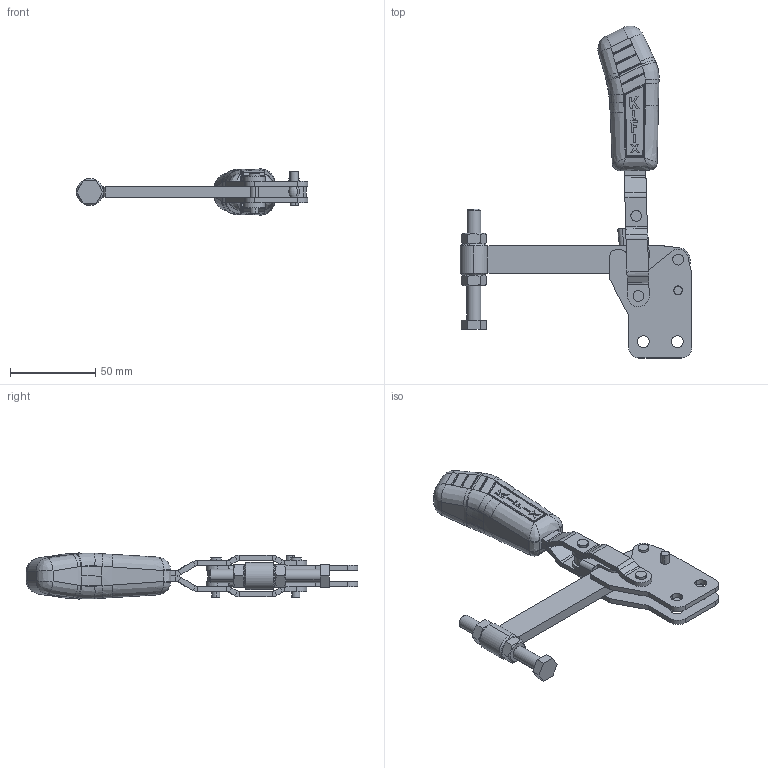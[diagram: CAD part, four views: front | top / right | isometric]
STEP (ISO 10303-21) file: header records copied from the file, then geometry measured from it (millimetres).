
FILE_DESCRIPTION (( 'STEP AP203' ), '1' );
FILE_NAME ('KF-018 RS.STEP', '2014-07-28T18:48:59', ( 'Ricardo' ), ( '' ), 'SwSTEP 2.0', 'SolidWorks 2013', '' );
FILE_SCHEMA (( 'CONFIG_CONTROL_DESIGN' ));
Length unit declared in the file: millimetre
Products named in the file (14): 04.10001; 11.50002; 04.20001; PSB-M8; 05.20017; KF-018 RS; 06.50001; 06.50002; 07.60001; 03.15003; 02.11006; 20.20004; 01.10005; 12.50020
Assembly tree (18 placements, depth 3):
  KF-018 RS
    02.11006  x2
    01.10005  x2
    04.10001
    04.20001
    05.20017
    06.50001  x2
    06.50002  x2
    07.60001
    03.15003
    PSB-M8
      20.20004
      12.50020
      11.50002  x2
Bounding box: 135.88 x 194.91 x 27.02 mm (x, y, z)
Volume: 91927.1 mm3; surface area: 46397.2 mm2
Topology: 17 solids, 17 shells, 681 faces, 1682 edges, 1050 vertices
Faces by surface type: plane 301, cylinder 207, bspline 126, cone 42, torus 5
Entity records: 21725 total; most frequent: CARTESIAN_POINT 8161, ORIENTED_EDGE 2764, DIRECTION 2060, EDGE_CURVE 1382, VERTEX_POINT 876, AXIS2_PLACEMENT_3D 729, EDGE_LOOP 610, VECTOR 602
